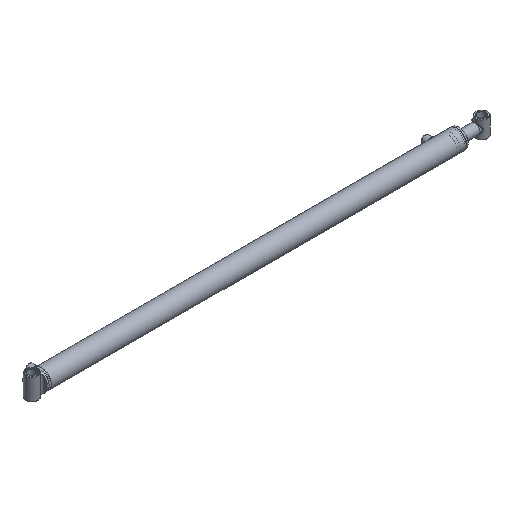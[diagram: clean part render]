
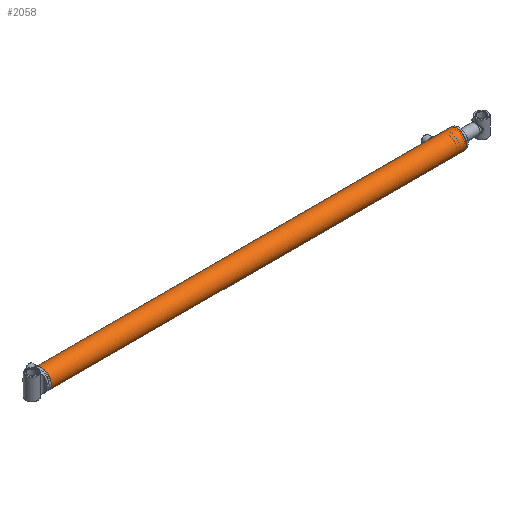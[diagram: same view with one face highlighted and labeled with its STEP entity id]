
A CAD part, isometric view. The second image highlights one B-rep face of the part: STEP entity #2058.
In plain terms, the highlighted cylindrical face has radius 30.163 mm (diameter 60.325 mm), a full revolution.
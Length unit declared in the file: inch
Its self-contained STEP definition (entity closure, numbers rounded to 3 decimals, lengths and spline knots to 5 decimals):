
#377=FACE_BOUND('',#700,.T.);
#378=FACE_BOUND('',#701,.T.);
#379=FACE_BOUND('',#702,.T.);
#500=FACE_OUTER_BOUND('',#699,.T.);
#699=EDGE_LOOP('',(#1636));
#700=EDGE_LOOP('',(#1637));
#701=EDGE_LOOP('',(#1638));
#702=EDGE_LOOP('',(#1639));
#908=CIRCLE('',#2250,1.1875);
#912=CIRCLE('',#2258,1.1875);
#1027=B_SPLINE_CURVE_WITH_KNOTS('',3,(#4708,#4709,#4710,#4711,#4712,#4713,
#4714,#4715,#4716,#4717,#4718,#4719,#4720,#4721,#4722,#4723,#4724,#4725,
#4726,#4727,#4728,#4729,#4730,#4731,#4732,#4733,#4734,#4735,#4736,#4737,
#4738,#4739,#4740,#4741),.UNSPECIFIED.,.T.,.F.,(4,2,2,2,2,2,2,2,2,2,2,2,
2,2,2,2,4),(0.,0.18872,0.37744,0.56616,0.75487,
0.94359,1.1323,1.32102,1.50975,1.69847,
1.88719,2.0759,2.26462,2.45333,2.64205,
2.83077,3.01949),.UNSPECIFIED.);
#1029=B_SPLINE_CURVE_WITH_KNOTS('',3,(#4916,#4917,#4918,#4919,#4920,#4921,
#4922,#4923,#4924,#4925,#4926,#4927,#4928,#4929,#4930,#4931,#4932,#4933,
#4934,#4935,#4936,#4937,#4938,#4939,#4940,#4941,#4942,#4943,#4944,#4945,
#4946,#4947,#4948,#4949),.UNSPECIFIED.,.T.,.F.,(4,2,2,2,2,2,2,2,2,2,2,2,
2,2,2,2,4),(0.,0.18872,0.37744,0.56616,0.75487,
0.94359,1.1323,1.32102,1.50975,1.69847,
1.88719,2.0759,2.26462,2.45333,2.64205,
2.83077,3.01949),.UNSPECIFIED.);
#1098=VERTEX_POINT('',#4707);
#1100=VERTEX_POINT('',#4915);
#1104=VERTEX_POINT('',#4959);
#1108=VERTEX_POINT('',#4971);
#1303=EDGE_CURVE('',#1098,#1098,#1027,.T.);
#1306=EDGE_CURVE('',#1100,#1100,#1029,.T.);
#1310=EDGE_CURVE('',#1104,#1104,#908,.T.);
#1314=EDGE_CURVE('',#1108,#1108,#912,.T.);
#1636=ORIENTED_EDGE('',*,*,#1314,.T.);
#1637=ORIENTED_EDGE('',*,*,#1303,.T.);
#1638=ORIENTED_EDGE('',*,*,#1306,.T.);
#1639=ORIENTED_EDGE('',*,*,#1310,.F.);
#1980=CYLINDRICAL_SURFACE('',#2260,1.1875);
#2058=ADVANCED_FACE('',(#500,#377,#378,#379),#1980,.T.);
#2250=AXIS2_PLACEMENT_3D('',#4960,#2627,#2628);
#2258=AXIS2_PLACEMENT_3D('',#4972,#2643,#2644);
#2260=AXIS2_PLACEMENT_3D('',#4974,#2647,#2648);
#2627=DIRECTION('center_axis',(1.,0.,0.));
#2628=DIRECTION('ref_axis',(0.,-1.,0.));
#2643=DIRECTION('center_axis',(1.,0.,0.));
#2644=DIRECTION('ref_axis',(0.,-1.,0.));
#2647=DIRECTION('center_axis',(1.,0.,0.));
#2648=DIRECTION('ref_axis',(0.,-1.,0.));
#4707=CARTESIAN_POINT('',(23.94094,1.17107,-0.19685));
#4708=CARTESIAN_POINT('Ctrl Pts',(23.94094,1.17107,-0.19685));
#4709=CARTESIAN_POINT('Ctrl Pts',(23.96571,1.17107,-0.19685));
#4710=CARTESIAN_POINT('Ctrl Pts',(23.9921,1.17194,-0.19189));
#4711=CARTESIAN_POINT('Ctrl Pts',(24.04058,1.17505,-0.17179));
#4712=CARTESIAN_POINT('Ctrl Pts',(24.06269,1.17725,-0.15665));
#4713=CARTESIAN_POINT('Ctrl Pts',(24.09759,1.18137,-0.12174));
#4714=CARTESIAN_POINT('Ctrl Pts',(24.11273,1.18356,-0.09964));
#4715=CARTESIAN_POINT('Ctrl Pts',(24.13284,1.18665,-0.05115));
#4716=CARTESIAN_POINT('Ctrl Pts',(24.1378,1.1875,-0.02477));
#4717=CARTESIAN_POINT('Ctrl Pts',(24.1378,1.1875,0.02477));
#4718=CARTESIAN_POINT('Ctrl Pts',(24.13284,1.18665,0.05115));
#4719=CARTESIAN_POINT('Ctrl Pts',(24.11273,1.18356,0.09964));
#4720=CARTESIAN_POINT('Ctrl Pts',(24.09759,1.18137,0.12174));
#4721=CARTESIAN_POINT('Ctrl Pts',(24.06269,1.17725,0.15665));
#4722=CARTESIAN_POINT('Ctrl Pts',(24.04058,1.17505,0.17179));
#4723=CARTESIAN_POINT('Ctrl Pts',(23.9921,1.17194,0.19189));
#4724=CARTESIAN_POINT('Ctrl Pts',(23.96571,1.17107,0.19685));
#4725=CARTESIAN_POINT('Ctrl Pts',(23.91618,1.17107,0.19685));
#4726=CARTESIAN_POINT('Ctrl Pts',(23.88979,1.17194,0.19189));
#4727=CARTESIAN_POINT('Ctrl Pts',(23.84131,1.17505,0.17179));
#4728=CARTESIAN_POINT('Ctrl Pts',(23.8192,1.17725,0.15665));
#4729=CARTESIAN_POINT('Ctrl Pts',(23.7843,1.18137,0.12174));
#4730=CARTESIAN_POINT('Ctrl Pts',(23.76916,1.18356,0.09964));
#4731=CARTESIAN_POINT('Ctrl Pts',(23.74905,1.18665,0.05115));
#4732=CARTESIAN_POINT('Ctrl Pts',(23.74409,1.1875,0.02477));
#4733=CARTESIAN_POINT('Ctrl Pts',(23.74409,1.1875,-0.02477));
#4734=CARTESIAN_POINT('Ctrl Pts',(23.74905,1.18665,-0.05115));
#4735=CARTESIAN_POINT('Ctrl Pts',(23.76916,1.18356,-0.09964));
#4736=CARTESIAN_POINT('Ctrl Pts',(23.7843,1.18137,-0.12174));
#4737=CARTESIAN_POINT('Ctrl Pts',(23.8192,1.17725,-0.15665));
#4738=CARTESIAN_POINT('Ctrl Pts',(23.84131,1.17505,-0.17179));
#4739=CARTESIAN_POINT('Ctrl Pts',(23.88979,1.17194,-0.19189));
#4740=CARTESIAN_POINT('Ctrl Pts',(23.91618,1.17107,-0.19685));
#4741=CARTESIAN_POINT('Ctrl Pts',(23.94094,1.17107,-0.19685));
#4915=CARTESIAN_POINT('',(-25.35827,1.17107,-0.19685));
#4916=CARTESIAN_POINT('Ctrl Pts',(-25.35827,1.17107,-0.19685));
#4917=CARTESIAN_POINT('Ctrl Pts',(-25.3335,1.17107,-0.19685));
#4918=CARTESIAN_POINT('Ctrl Pts',(-25.30712,1.17194,-0.19189));
#4919=CARTESIAN_POINT('Ctrl Pts',(-25.25863,1.17505,-0.17179));
#4920=CARTESIAN_POINT('Ctrl Pts',(-25.23653,1.17725,-0.15665));
#4921=CARTESIAN_POINT('Ctrl Pts',(-25.20162,1.18137,-0.12174));
#4922=CARTESIAN_POINT('Ctrl Pts',(-25.18648,1.18356,-0.09964));
#4923=CARTESIAN_POINT('Ctrl Pts',(-25.16638,1.18665,-0.05115));
#4924=CARTESIAN_POINT('Ctrl Pts',(-25.16142,1.1875,-0.02477));
#4925=CARTESIAN_POINT('Ctrl Pts',(-25.16142,1.1875,0.02477));
#4926=CARTESIAN_POINT('Ctrl Pts',(-25.16638,1.18665,0.05115));
#4927=CARTESIAN_POINT('Ctrl Pts',(-25.18648,1.18356,0.09964));
#4928=CARTESIAN_POINT('Ctrl Pts',(-25.20162,1.18137,0.12174));
#4929=CARTESIAN_POINT('Ctrl Pts',(-25.23653,1.17725,0.15665));
#4930=CARTESIAN_POINT('Ctrl Pts',(-25.25863,1.17505,0.17179));
#4931=CARTESIAN_POINT('Ctrl Pts',(-25.30712,1.17194,0.19189));
#4932=CARTESIAN_POINT('Ctrl Pts',(-25.3335,1.17107,0.19685));
#4933=CARTESIAN_POINT('Ctrl Pts',(-25.38303,1.17107,0.19685));
#4934=CARTESIAN_POINT('Ctrl Pts',(-25.40942,1.17194,0.19189));
#4935=CARTESIAN_POINT('Ctrl Pts',(-25.45791,1.17505,0.17179));
#4936=CARTESIAN_POINT('Ctrl Pts',(-25.48001,1.17725,0.15665));
#4937=CARTESIAN_POINT('Ctrl Pts',(-25.51491,1.18137,0.12174));
#4938=CARTESIAN_POINT('Ctrl Pts',(-25.53006,1.18356,0.09964));
#4939=CARTESIAN_POINT('Ctrl Pts',(-25.55016,1.18665,0.05115));
#4940=CARTESIAN_POINT('Ctrl Pts',(-25.55512,1.1875,0.02477));
#4941=CARTESIAN_POINT('Ctrl Pts',(-25.55512,1.1875,-0.02477));
#4942=CARTESIAN_POINT('Ctrl Pts',(-25.55016,1.18665,-0.05115));
#4943=CARTESIAN_POINT('Ctrl Pts',(-25.53006,1.18356,-0.09964));
#4944=CARTESIAN_POINT('Ctrl Pts',(-25.51491,1.18137,-0.12174));
#4945=CARTESIAN_POINT('Ctrl Pts',(-25.48001,1.17725,-0.15665));
#4946=CARTESIAN_POINT('Ctrl Pts',(-25.45791,1.17505,-0.17179));
#4947=CARTESIAN_POINT('Ctrl Pts',(-25.40942,1.17194,-0.19189));
#4948=CARTESIAN_POINT('Ctrl Pts',(-25.38303,1.17107,-0.19685));
#4949=CARTESIAN_POINT('Ctrl Pts',(-25.35827,1.17107,-0.19685));
#4959=CARTESIAN_POINT('',(25.94882,1.1875,0.));
#4960=CARTESIAN_POINT('Origin',(25.94882,0.,0.));
#4971=CARTESIAN_POINT('',(-25.78494,1.1875,0.));
#4972=CARTESIAN_POINT('Origin',(-25.78494,0.,0.));
#4974=CARTESIAN_POINT('Origin',(0.,0.,0.));
